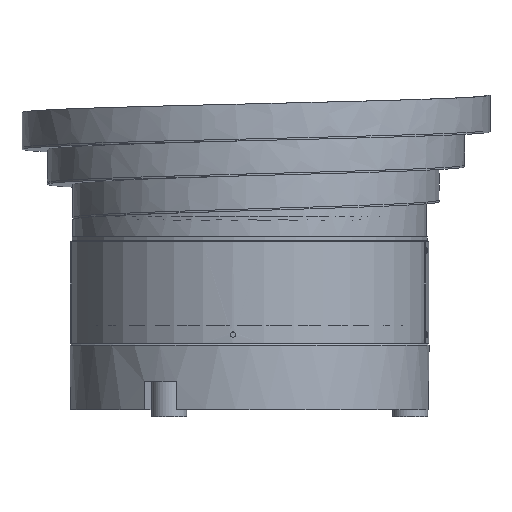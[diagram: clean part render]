
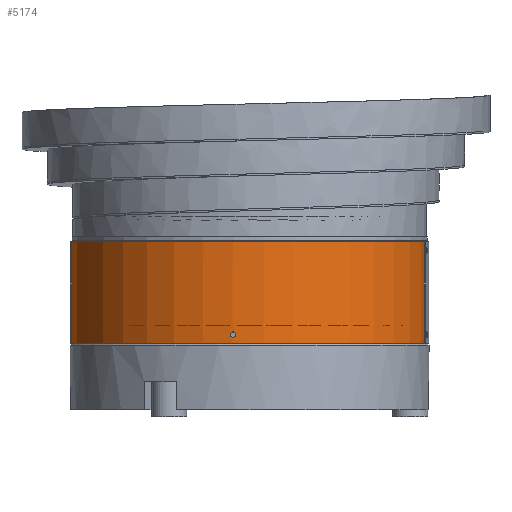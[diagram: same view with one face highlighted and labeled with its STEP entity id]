
A CAD part, left-side view. The second image highlights one B-rep face of the part: STEP entity #5174.
In plain terms, the highlighted cylindrical face has radius 203.5 mm (diameter 407 mm), a partial arc.
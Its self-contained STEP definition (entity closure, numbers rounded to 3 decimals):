
#69=B_SPLINE_CURVE_WITH_KNOTS('',3,(#9424,#9425,#9426,#9427,#9428,#9429,
#9430,#9431,#9432,#9433,#9434,#9435,#9436,#9437,#9438,#9439,#9440,#9441,
#9442,#9443,#9444,#9445,#9446,#9447,#9448,#9449,#9450,#9451,#9452,#9453,
#9454,#9455,#9456,#9457,#9458,#9459),.UNSPECIFIED.,.T.,.F.,(4,2,2,2,2,2,
2,2,2,2,2,2,2,2,2,2,2,4),(0.,0.102,0.196,0.291,
0.388,0.486,0.586,0.685,
0.784,0.88,0.973,1.068,
1.165,1.263,1.362,1.462,1.521,
1.584),.UNSPECIFIED.);
#71=B_SPLINE_CURVE_WITH_KNOTS('',3,(#9710,#9711,#9712,#9713,#9714,#9715,
#9716,#9717,#9718,#9719,#9720,#9721,#9722,#9723,#9724,#9725,#9726,#9727,
#9728,#9729),.UNSPECIFIED.,.F.,.F.,(4,2,2,2,2,2,2,2,2,4),(0.,0.117,
0.237,0.355,0.473,0.588,
0.699,0.813,0.878,0.943),
 .UNSPECIFIED.);
#294=FACE_BOUND('',#1009,.T.);
#458=CYLINDRICAL_SURFACE('',#5990,203.5);
#658=FACE_OUTER_BOUND('',#1008,.T.);
#1008=EDGE_LOOP('',(#4521,#4522,#4523,#4524,#4525,#4526,#4527,#4528));
#1009=EDGE_LOOP('',(#4529));
#1292=LINE('',#9760,#1604);
#1293=LINE('',#9764,#1605);
#1294=LINE('',#9767,#1606);
#1604=VECTOR('',#7468,10.);
#1605=VECTOR('',#7471,10.);
#1606=VECTOR('',#7474,10.);
#2112=CIRCLE('',#5991,203.5);
#2113=CIRCLE('',#5992,203.5);
#2114=CIRCLE('',#5993,203.5);
#2115=CIRCLE('',#5994,203.5);
#2583=VERTEX_POINT('',#9423);
#2585=VERTEX_POINT('',#9708);
#2586=VERTEX_POINT('',#9709);
#2589=VERTEX_POINT('',#9755);
#2590=VERTEX_POINT('',#9757);
#2591=VERTEX_POINT('',#9759);
#2592=VERTEX_POINT('',#9761);
#2593=VERTEX_POINT('',#9763);
#2594=VERTEX_POINT('',#9765);
#3249=EDGE_CURVE('',#2583,#2583,#69,.T.);
#3252=EDGE_CURVE('',#2585,#2586,#71,.T.);
#3256=EDGE_CURVE('',#2589,#2585,#2112,.T.);
#3257=EDGE_CURVE('',#2586,#2590,#2113,.T.);
#3258=EDGE_CURVE('',#2591,#2590,#1292,.T.);
#3259=EDGE_CURVE('',#2591,#2592,#2114,.T.);
#3260=EDGE_CURVE('',#2593,#2592,#1293,.T.);
#3261=EDGE_CURVE('',#2593,#2594,#2115,.T.);
#3262=EDGE_CURVE('',#2589,#2594,#1294,.T.);
#4521=ORIENTED_EDGE('',*,*,#3256,.T.);
#4522=ORIENTED_EDGE('',*,*,#3252,.T.);
#4523=ORIENTED_EDGE('',*,*,#3257,.T.);
#4524=ORIENTED_EDGE('',*,*,#3258,.F.);
#4525=ORIENTED_EDGE('',*,*,#3259,.T.);
#4526=ORIENTED_EDGE('',*,*,#3260,.F.);
#4527=ORIENTED_EDGE('',*,*,#3261,.T.);
#4528=ORIENTED_EDGE('',*,*,#3262,.F.);
#4529=ORIENTED_EDGE('',*,*,#3249,.T.);
#5174=ADVANCED_FACE('',(#658,#294),#458,.T.);
#5990=AXIS2_PLACEMENT_3D('',#9754,#7462,#7463);
#5991=AXIS2_PLACEMENT_3D('',#9756,#7464,#7465);
#5992=AXIS2_PLACEMENT_3D('',#9758,#7466,#7467);
#5993=AXIS2_PLACEMENT_3D('',#9762,#7469,#7470);
#5994=AXIS2_PLACEMENT_3D('',#9766,#7472,#7473);
#7462=DIRECTION('center_axis',(0.,1.,0.));
#7463=DIRECTION('ref_axis',(0.,0.,-1.));
#7464=DIRECTION('center_axis',(0.,-1.,0.));
#7465=DIRECTION('ref_axis',(0.,0.,-1.));
#7466=DIRECTION('center_axis',(0.,1.,0.));
#7467=DIRECTION('ref_axis',(0.,0.,-1.));
#7468=DIRECTION('',(0.,-1.,0.));
#7469=DIRECTION('center_axis',(0.,-1.,0.));
#7470=DIRECTION('ref_axis',(0.,0.,-1.));
#7471=DIRECTION('',(0.,1.,0.));
#7472=DIRECTION('center_axis',(0.,1.,0.));
#7473=DIRECTION('ref_axis',(0.,0.,-1.));
#7474=DIRECTION('',(0.,-1.,0.));
#9423=CARTESIAN_POINT('',(-252.47,-266.01,198.712));
#9424=CARTESIAN_POINT('Ctrl Pts',(-252.47,-266.01,198.712));
#9425=CARTESIAN_POINT('Ctrl Pts',(-252.47,-265.669,198.712));
#9426=CARTESIAN_POINT('Ctrl Pts',(-252.471,-265.29,198.771));
#9427=CARTESIAN_POINT('Ctrl Pts',(-252.478,-264.56,199.061));
#9428=CARTESIAN_POINT('Ctrl Pts',(-252.482,-264.241,199.263));
#9429=CARTESIAN_POINT('Ctrl Pts',(-252.492,-263.689,199.778));
#9430=CARTESIAN_POINT('Ctrl Pts',(-252.498,-263.463,200.088));
#9431=CARTESIAN_POINT('Ctrl Pts',(-252.508,-263.134,200.784));
#9432=CARTESIAN_POINT('Ctrl Pts',(-252.513,-263.037,201.165));
#9433=CARTESIAN_POINT('Ctrl Pts',(-252.521,-262.993,201.948));
#9434=CARTESIAN_POINT('Ctrl Pts',(-252.523,-263.048,202.342));
#9435=CARTESIAN_POINT('Ctrl Pts',(-252.526,-263.308,203.093));
#9436=CARTESIAN_POINT('Ctrl Pts',(-252.526,-263.513,203.441));
#9437=CARTESIAN_POINT('Ctrl Pts',(-252.526,-264.045,204.034));
#9438=CARTESIAN_POINT('Ctrl Pts',(-252.525,-264.365,204.275));
#9439=CARTESIAN_POINT('Ctrl Pts',(-252.523,-265.081,204.616));
#9440=CARTESIAN_POINT('Ctrl Pts',(-252.523,-265.469,204.714));
#9441=CARTESIAN_POINT('Ctrl Pts',(-252.522,-266.247,204.752));
#9442=CARTESIAN_POINT('Ctrl Pts',(-252.523,-266.631,204.696));
#9443=CARTESIAN_POINT('Ctrl Pts',(-252.524,-267.348,204.447));
#9444=CARTESIAN_POINT('Ctrl Pts',(-252.525,-267.675,204.258));
#9445=CARTESIAN_POINT('Ctrl Pts',(-252.526,-268.247,203.768));
#9446=CARTESIAN_POINT('Ctrl Pts',(-252.526,-268.485,203.468));
#9447=CARTESIAN_POINT('Ctrl Pts',(-252.525,-268.843,202.789));
#9448=CARTESIAN_POINT('Ctrl Pts',(-252.524,-268.956,202.413));
#9449=CARTESIAN_POINT('Ctrl Pts',(-252.518,-269.035,201.634));
#9450=CARTESIAN_POINT('Ctrl Pts',(-252.514,-268.997,201.238));
#9451=CARTESIAN_POINT('Ctrl Pts',(-252.504,-268.77,200.478));
#9452=CARTESIAN_POINT('Ctrl Pts',(-252.498,-268.582,200.122));
#9453=CARTESIAN_POINT('Ctrl Pts',(-252.487,-268.078,199.506));
#9454=CARTESIAN_POINT('Ctrl Pts',(-252.482,-267.768,199.251));
#9455=CARTESIAN_POINT('Ctrl Pts',(-252.475,-267.206,198.951));
#9456=CARTESIAN_POINT('Ctrl Pts',(-252.473,-266.982,198.864));
#9457=CARTESIAN_POINT('Ctrl Pts',(-252.471,-266.507,198.743));
#9458=CARTESIAN_POINT('Ctrl Pts',(-252.47,-266.259,198.712));
#9459=CARTESIAN_POINT('Ctrl Pts',(-252.47,-266.01,198.712));
#9708=CARTESIAN_POINT('',(-63.88,-269.01,406.457));
#9709=CARTESIAN_POINT('',(-63.88,-263.01,406.457));
#9710=CARTESIAN_POINT('Ctrl Pts',(-63.88,-269.01,406.457));
#9711=CARTESIAN_POINT('Ctrl Pts',(-64.269,-269.01,406.429));
#9712=CARTESIAN_POINT('Ctrl Pts',(-64.656,-268.935,406.399));
#9713=CARTESIAN_POINT('Ctrl Pts',(-65.388,-268.635,406.342));
#9714=CARTESIAN_POINT('Ctrl Pts',(-65.724,-268.412,406.314));
#9715=CARTESIAN_POINT('Ctrl Pts',(-66.286,-267.848,406.267));
#9716=CARTESIAN_POINT('Ctrl Pts',(-66.508,-267.515,406.248));
#9717=CARTESIAN_POINT('Ctrl Pts',(-66.808,-266.782,406.222));
#9718=CARTESIAN_POINT('Ctrl Pts',(-66.884,-266.39,406.215));
#9719=CARTESIAN_POINT('Ctrl Pts',(-66.88,-265.611,406.215));
#9720=CARTESIAN_POINT('Ctrl Pts',(-66.805,-265.233,406.222));
#9721=CARTESIAN_POINT('Ctrl Pts',(-66.52,-264.533,406.247));
#9722=CARTESIAN_POINT('Ctrl Pts',(-66.315,-264.216,406.264));
#9723=CARTESIAN_POINT('Ctrl Pts',(-65.796,-263.669,406.308));
#9724=CARTESIAN_POINT('Ctrl Pts',(-65.484,-263.446,406.334));
#9725=CARTESIAN_POINT('Ctrl Pts',(-64.942,-263.196,406.377));
#9726=CARTESIAN_POINT('Ctrl Pts',(-64.735,-263.126,406.393));
#9727=CARTESIAN_POINT('Ctrl Pts',(-64.311,-263.034,406.425));
#9728=CARTESIAN_POINT('Ctrl Pts',(-64.095,-263.01,406.441));
#9729=CARTESIAN_POINT('Ctrl Pts',(-63.88,-263.01,406.457));
#9754=CARTESIAN_POINT('Origin',(-49.026,-218.01,203.5));
#9755=CARTESIAN_POINT('',(-52.578,-269.01,406.969));
#9756=CARTESIAN_POINT('Origin',(-49.026,-269.01,203.5));
#9757=CARTESIAN_POINT('',(-52.578,-263.01,406.969));
#9758=CARTESIAN_POINT('Origin',(-49.026,-263.01,203.5));
#9759=CARTESIAN_POINT('',(-52.578,-160.01,406.969));
#9760=CARTESIAN_POINT('',(-52.578,-189.441,406.969));
#9761=CARTESIAN_POINT('',(-49.026,-160.01,0.));
#9762=CARTESIAN_POINT('Origin',(-49.026,-160.01,203.5));
#9763=CARTESIAN_POINT('',(-49.026,-276.01,0.));
#9764=CARTESIAN_POINT('',(-49.026,-247.441,0.));
#9765=CARTESIAN_POINT('',(-52.578,-276.01,406.969));
#9766=CARTESIAN_POINT('Origin',(-49.026,-276.01,203.5));
#9767=CARTESIAN_POINT('',(-52.578,-243.941,406.969));
